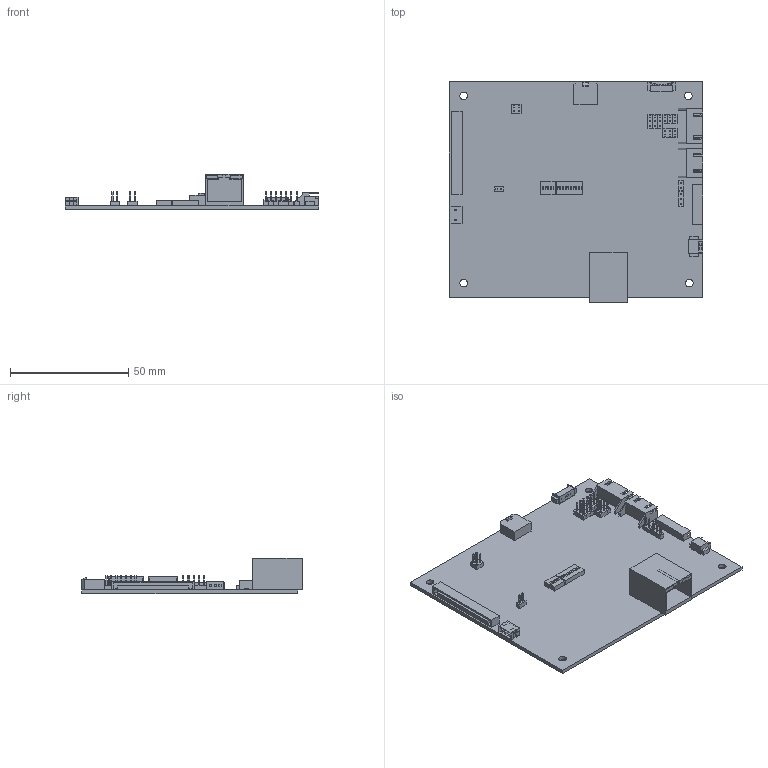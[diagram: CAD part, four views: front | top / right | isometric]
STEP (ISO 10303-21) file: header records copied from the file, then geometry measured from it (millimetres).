
FILE_DESCRIPTION (( 'STEP AP203' ), '1' );
FILE_NAME ('DD-1920-HDBT.STEP', '2016-07-29T03:17:58', ( 'DV12-08PC' ), ( 'Digitalview' ), 'SwSTEP 2.0', 'SolidWorks 2011', '' );
FILE_SCHEMA (( 'CONFIG_CONTROL_DESIGN' ));
Length unit declared in the file: millimetre
Products named in the file (17): dip_switch_4-way(s); Header_2.0_2x1; power plug 1x2; 7.5 x 4.2 -3pin; J3''; DD-1920-HDBT; LED 3 pin; J1; dip_switch_8-way(s); Header_2.0_1x3; PIN2-3 ROW; Header_2.0_2x2; 1.25-F1x12P; CN15; 2.5-F-04p(H); 2.5-F-05p2(H); Board
Assembly tree (25 placements, depth 3):
  DD-1920-HDBT
    J3''
    Header_2.0_2x1  x3
    power plug 1x2
    Header_2.0_1x3  x4
    dip_switch_8-way(s)
    Board
    CN15
    2.5-F-05p2(H)
    1.25-F1x12P
    J1
    PIN2-3 ROW
      Header_2.0_2x1  x3
    2.5-F-04p(H)
    LED 3 pin
    dip_switch_4-way(s)
    Header_2.0_2x2  x2
    7.5 x 4.2 -3pin
Bounding box: 107.44 x 93.44 x 15.15 mm (x, y, z)
Volume: 21089.5 mm3; surface area: 28014 mm2
Topology: 24 solids, 24 shells, 821 faces, 2020 edges, 1346 vertices
Faces by surface type: plane 813, cylinder 8
Entity records: 21227 total; most frequent: CARTESIAN_POINT 3407, ORIENTED_EDGE 3272, DIRECTION 3014, EDGE_CURVE 1636, VECTOR 1620, LINE 1620, VERTEX_POINT 1090, EDGE_LOOP 740
